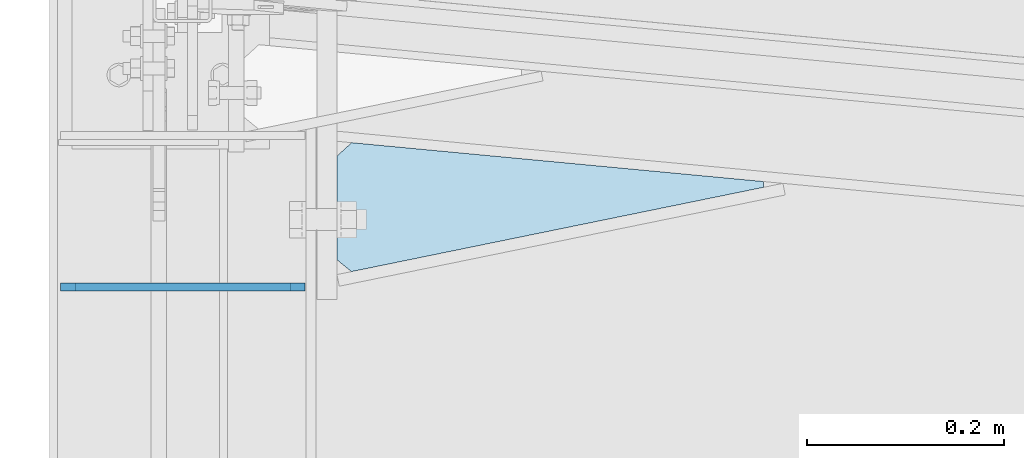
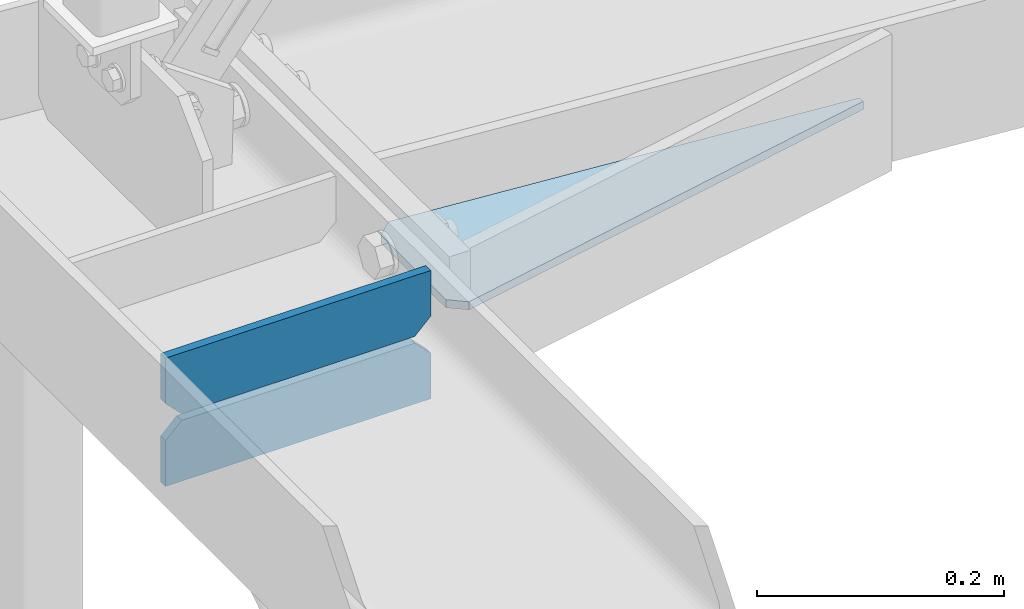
# One storey, part 147 of 271: 3 plates, 2 elements without a shape of their own.
"""IFC2X3 building model written with IfcOpenShell, lengths in millimetres."""

import ifcopenshell
import ifcopenshell.guid

model = None  # the IFC model being written
_history = None  # IfcOwnerHistory: only IFC2X3 demands one
_inside = {}  # id of a spatial element -> (the spatial element, [elements in it])
_under = {}  # id of a project, library or spatial element -> (it, [spatial elements below it])
_declared = {}  # id of a project -> (the project, [libraries it declares])
_typed = {}  # id of a type object -> (the type object, [elements of that type])
_made_of = {}  # id of a material, layer set ... -> (it, [elements and type objects made of it])


def new_model(schema):
    """Start an empty IFC model of exactly this schema.

    Asked for "IFC4X3", IfcOpenShell would pick the latest addendum, in which some entities
    have other attributes; the version numbers below select the first issue.
    IFC2X3 requires an IfcOwnerHistory on every rooted entity: one is made here for all.
    """
    global model, _history
    if schema == "IFC4X3":
        model = ifcopenshell.file(schema_version=(4, 3, 0, 0))
    else:
        model = ifcopenshell.file(schema=schema)
    _inside.clear()
    _under.clear()
    _declared.clear()
    _typed.clear()
    _made_of.clear()
    _history = None
    if model.schema == "IFC2X3":
        org = make("IfcOrganization", Name="unknown")
        user = make(
            "IfcPersonAndOrganization",
            ThePerson=make("IfcPerson", FamilyName="unknown"),
            TheOrganization=org,
        )
        app = make(
            "IfcApplication",
            ApplicationDeveloper=org,
            Version="unknown",
            ApplicationFullName="unknown",
            ApplicationIdentifier="unknown",
        )
        _history = make(
            "IfcOwnerHistory",
            OwningUser=user,
            OwningApplication=app,
            ChangeAction="ADDED",
            CreationDate=0,
        )
    return model


def make(cls, **values):
    """One entity of the class cls with the attributes given. An attribute that is None is left unset."""
    return model.create_entity(
        cls, **{name: value for name, value in values.items() if value is not None}
    )


def rooted(cls, **values):
    """An entity with a GlobalId (a new one), such as an element, a storey or a relation."""
    return make(cls, GlobalId=ifcopenshell.guid.new(), OwnerHistory=_history, **values)


def si_unit(unit_type, name, prefix=None):
    """IfcSIUnit, for example si_unit("LENGTHUNIT", "METRE", prefix="MILLI")."""
    return make("IfcSIUnit", UnitType=unit_type, Prefix=prefix, Name=name)


def assignment(units):
    """IfcUnitAssignment: the units of a project."""
    return None if units is None else make("IfcUnitAssignment", Units=units)


def point(xyz):
    """IfcCartesianPoint."""
    return None if xyz is None else make("IfcCartesianPoint", Coordinates=xyz)


def direction(xyz):
    """IfcDirection."""
    return None if xyz is None else make("IfcDirection", DirectionRatios=xyz)


def frame(location, z_axis=None, x_axis=None):
    """IfcAxis2Placement3D, a coordinate frame: its origin and axes. An axis left out is left unset."""
    return make(
        "IfcAxis2Placement3D",
        Location=point(location),
        Axis=direction(z_axis),
        RefDirection=direction(x_axis),
    )


def origin_with_axes():
    """The frame at (0, 0, 0) with the z axis (0, 0, 1) and the x axis (1, 0, 0) written out."""
    return frame((0.0, 0.0, 0.0), z_axis=(0.0, 0.0, 1.0), x_axis=(1.0, 0.0, 0.0))


def place(relative_to, where):
    """IfcLocalPlacement: puts the frame where relative to a parent placement (None: the world)."""
    return make(
        "IfcLocalPlacement", PlacementRelTo=relative_to, RelativePlacement=where
    )


def context(
    kind, dimensions, precision=None, world=None, true_north=None, identifier=None
):
    """IfcGeometricRepresentationContext, for example the 3D "Model" context."""
    return make(
        "IfcGeometricRepresentationContext",
        ContextIdentifier=identifier,
        ContextType=kind,
        CoordinateSpaceDimension=dimensions,
        Precision=precision,
        WorldCoordinateSystem=world,
        TrueNorth=true_north,
    )


def subcontext(parent, identifier, kind, view, scale=None):
    """IfcGeometricRepresentationSubContext, for example "Body" below "Model"."""
    return make(
        "IfcGeometricRepresentationSubContext",
        ContextIdentifier=identifier,
        ContextType=kind,
        ParentContext=parent,
        TargetScale=scale,
        TargetView=view,
    )


def project(units=None, contexts=None):
    """IfcProject with its units and contexts."""
    return rooted(
        "IfcProject",
        Name="project",
        RepresentationContexts=contexts,
        UnitsInContext=assignment(units),
    )


def spatial(cls, under=None, at=None, **own):
    """A site, building, storey or space (cls), placed at a placement, below another one or the project."""
    s = rooted(cls, ObjectPlacement=at, **own)
    if under is not None:
        _under.setdefault(under.id(), (under, []))[1].append(s)
    return s


def polyline(points):
    """IfcPolyline through the points."""
    return make("IfcPolyline", Points=[point(p) for p in points])


def outline(outer, holes=None, kind="AREA"):
    """IfcArbitraryClosedProfileDef: a profile drawn as a closed curve; with holes, ...WithVoids."""
    if holes is None:
        return make("IfcArbitraryClosedProfileDef", ProfileType=kind, OuterCurve=outer)
    return make(
        "IfcArbitraryProfileDefWithVoids",
        ProfileType=kind,
        OuterCurve=outer,
        InnerCurves=holes,
    )


def extrude(swept, where, along, depth):
    """IfcExtrudedAreaSolid: the profile swept, set in the frame where, extruded along a direction by depth."""
    return make(
        "IfcExtrudedAreaSolid",
        SweptArea=swept,
        Position=where,
        ExtrudedDirection=direction(along),
        Depth=depth,
    )


def shape(context_of_items, identifier, shape_type, items):
    """IfcShapeRepresentation: the items that make up one representation, for example the "Body"."""
    return make(
        "IfcShapeRepresentation",
        ContextOfItems=context_of_items,
        RepresentationIdentifier=identifier,
        RepresentationType=shape_type,
        Items=items,
    )


def material(Name=None, Category=None):
    """IfcMaterial."""
    return make("IfcMaterial", Name=Name, Category=Category)


def made_of(thing, what):
    """Note that an element or type object is made of a material, layer set ...; save() writes the relation."""
    if what is not None:
        _made_of.setdefault(what.id(), (what, []))[1].append(thing)
    return thing


def type_object(cls, material=None, **own):
    """A type object (cls), such as IfcWallType, which elements share."""
    return made_of(rooted(cls, **own), material)


def element(
    cls,
    number,
    at=None,
    inside=None,
    cuts=None,
    type_object=None,
    material=None,
    context=None,
    identifier="Body",
    shape_type=None,
    held_by="IfcProductDefinitionShape",
    body=None,
    shapes=None,
    **own,
):
    """One element of the class cls, such as IfcWall. Its Tag is "e" and its number.

    at: its placement. inside: the storey or other place that contains it. cuts: it is an
    opening in that element (IfcRelVoidsElement). A single representation is given by context,
    identifier, shape_type and body (its items); several are given by shapes. held_by: the class
    of the entity that holds the representations. save() writes the other relations.
    """
    e = rooted(cls, Tag="e%d" % number, ObjectPlacement=at, **own)
    if body is not None:
        shapes = [shape(context, identifier, shape_type, body)]
    if shapes is not None:
        e.Representation = make(held_by, Representations=shapes)
    if inside is not None:
        _inside.setdefault(inside.id(), (inside, []))[1].append(e)
    if cuts is not None:
        rooted(
            "IfcRelVoidsElement", RelatingBuildingElement=cuts, RelatedOpeningElement=e
        )
    if type_object is not None:
        _typed.setdefault(type_object.id(), (type_object, []))[1].append(e)
    return made_of(e, material)


def aggregate(whole, parts):
    """IfcRelAggregates: a whole, such as a stair, and the parts it consists of."""
    return rooted("IfcRelAggregates", RelatingObject=whole, RelatedObjects=parts)


def save(model, path):
    """Write the relations noted so far, then the file.

    IfcRelAggregates (storeys below a building ...), IfcRelContainedInSpatialStructure (elements
    in a storey), IfcRelDefinesByType, IfcRelAssociatesMaterial and IfcRelDeclares: one each for
    every whole, place, type object, material and project.
    """
    for whole, parts in _under.values():
        aggregate(whole, parts)
    for where, things in _inside.values():
        rooted(
            "IfcRelContainedInSpatialStructure",
            RelatedElements=things,
            RelatingStructure=where,
        )
    for kind, things in _typed.values():
        rooted("IfcRelDefinesByType", RelatedObjects=things, RelatingType=kind)
    for what, things in _made_of.values():
        rooted("IfcRelAssociatesMaterial", RelatedObjects=things, RelatingMaterial=what)
    for by, libraries in _declared.values():
        rooted("IfcRelDeclares", RelatingContext=by, RelatedDefinitions=libraries)
    model.write(path)


model = new_model("IFC2X3")

# Units and contexts
model_context = context("Model", 3, precision=1e-05, world=origin_with_axes())
body_context = subcontext(model_context, "Body", "Model", "MODEL_VIEW")
ifc_project = project(units=[si_unit("LENGTHUNIT", "METRE", prefix="MILLI"), si_unit("AREAUNIT", "SQUARE_METRE"), si_unit("VOLUMEUNIT", "CUBIC_METRE"), si_unit("MASSUNIT", "GRAM", prefix="KILO"), si_unit("TIMEUNIT", "SECOND"), si_unit("PLANEANGLEUNIT", "RADIAN"), si_unit("SOLIDANGLEUNIT", "STERADIAN"), si_unit("THERMODYNAMICTEMPERATUREUNIT", "DEGREE_CELSIUS"), si_unit("LUMINOUSINTENSITYUNIT", "LUMEN")], contexts=[model_context])

# Site, building, storey
site_placement = place(None, origin_with_axes())
site = spatial("IfcSite", under=ifc_project, at=site_placement, Name="Undefined", CompositionType="ELEMENT")
building_placement = place(site_placement, origin_with_axes())
building = spatial("IfcBuilding", under=site, at=building_placement, Name="Undefined", CompositionType="ELEMENT")
storey_placement = place(building_placement, origin_with_axes())
storey = spatial("IfcBuildingStorey", under=building, at=storey_placement, Name="Undefined", CompositionType="ELEMENT", Elevation=0.0)

# Assembly, plates
assembly_1_placement = place(storey_placement, origin_with_axes())
assembly_1 = element("IfcElementAssembly", 1, at=assembly_1_placement, inside=storey, AssemblyPlace="NOTDEFINED", PredefinedType="RIGID_FRAME")
ifc_material = material(Name="STEEL/S355JR")
plate_type_1 = type_object("IfcPlateType", Name="BL8*60", PredefinedType="NOTDEFINED")
plate_1_placement = place(assembly_1_placement, frame((247.175687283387, 3994.32774434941, 1427.64999985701), z_axis=(0.0, 1.0, 0.0), x_axis=(0.0, 0.0, -1.0)))
plate_1 = element("IfcPlate", 2, at=plate_1_placement, type_object=plate_type_1, material=ifc_material, Name="BLACHA", ObjectType="BL8*60", context=body_context, shape_type="SweptSolid", body=[
    extrude(outline(polyline([(0.0, 0.0), (45.0, 0.0), (60.0, 15.0), (60.0, 232.600006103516), (45.0, 247.600006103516), (0.0, 247.600006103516), (0.0, 0.0)])), frame((0.0, 0.0, -4.0), z_axis=(0.0, 0.0, 1.0), x_axis=(1.0, 0.0, 0.0)), (0.0, 0.0, 1.0), 8.0),
])
plate_2_placement = place(assembly_1_placement, frame((247.175687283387, 3994.32774434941, 1301.04999995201), z_axis=(0.0, -1.0, 0.0), x_axis=(0.0, 0.0, 1.0)))
plate_2 = element("IfcPlate", 3, at=plate_2_placement, type_object=plate_type_1, material=ifc_material, Name="BLACHA", ObjectType="BL8*60", context=body_context, shape_type="SweptSolid", body=[
    extrude(outline(polyline([(0.0, 0.0), (45.0, 0.0), (60.0, 15.0), (60.0, 232.600006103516), (45.0, 247.600006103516), (0.0, 247.600006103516), (0.0, 0.0)])), frame((0.0, 0.0, -4.0), z_axis=(0.0, 0.0, 1.0), x_axis=(1.0, 0.0, 0.0)), (0.0, 0.0, 1.0), 8.0),
])
aggregate(assembly_1, [plate_1, plate_2])

# Assembly, plate
assembly_2_placement = place(storey_placement, origin_with_axes())
assembly_2 = element("IfcElementAssembly", 4, at=assembly_2_placement, inside=storey, AssemblyPlace="NOTDEFINED", PredefinedType="RIGID_FRAME")
plate_type_2 = type_object("IfcPlateType", Name="BL8*128", PredefinedType="NOTDEFINED")
plate_3_placement = place(assembly_2_placement, frame((279.375687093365, 4006.87215400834, 1364.34999990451), z_axis=(0.0, 0.0, -1.0), x_axis=(0.0, 1.0, 0.0)))
plate_3 = element("IfcPlate", 5, at=plate_3_placement, type_object=plate_type_2, material=ifc_material, Name="BLACHA", ObjectType="BL8*128", context=body_context, shape_type="SweptSolid", body=[
    extrude(outline(polyline([(3.00624160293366, 14.6956630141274), (15.0, -1.59872115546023e-14), (120.0, 0.0), (133.591161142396, 14.9336925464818), (94.2702746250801, 431.735107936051), (88.3835006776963, 432.052480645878), (3.00624160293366, 14.6956630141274)])), frame((0.0, 0.0, -4.0), z_axis=(0.0, 0.0, 1.0), x_axis=(1.0, 0.0, 0.0)), (0.0, 0.0, 1.0), 8.0),
])
aggregate(assembly_2, [plate_3])

save(model, "model.ifc")
